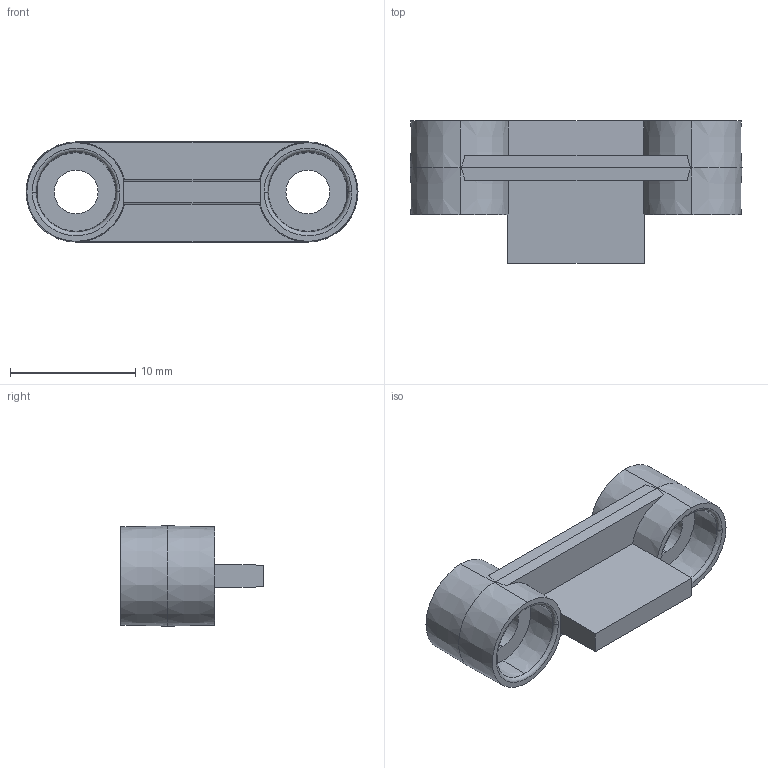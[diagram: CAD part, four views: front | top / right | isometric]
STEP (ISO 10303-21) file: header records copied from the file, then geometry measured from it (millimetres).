
FILE_DESCRIPTION (( 'STEP AP203' ), '1' );
FILE_NAME ('148122b.STEP', '2016-05-06T07:19:46', ( '' ), ( '' ), 'SwSTEP 2.0', 'SolidWorks 2014', '' );
FILE_SCHEMA (( 'CONFIG_CONTROL_DESIGN' ));
Length unit declared in the file: millimetre
Products named in the file (1): 148122b
Bounding box: 26.5 x 11.35 x 8 mm (x, y, z)
Volume: 736.3 mm3; surface area: 1286.9 mm2
Topology: 1 solids, 1 shells, 56 faces, 158 edges, 104 vertices
Faces by surface type: plane 26, cone 16, bspline 8, cylinder 6
Entity records: 2223 total; most frequent: CARTESIAN_POINT 715, ORIENTED_EDGE 316, DIRECTION 296, EDGE_CURVE 158, AXIS2_PLACEMENT_3D 121, VERTEX_POINT 104, CIRCLE 72, EDGE_LOOP 64
